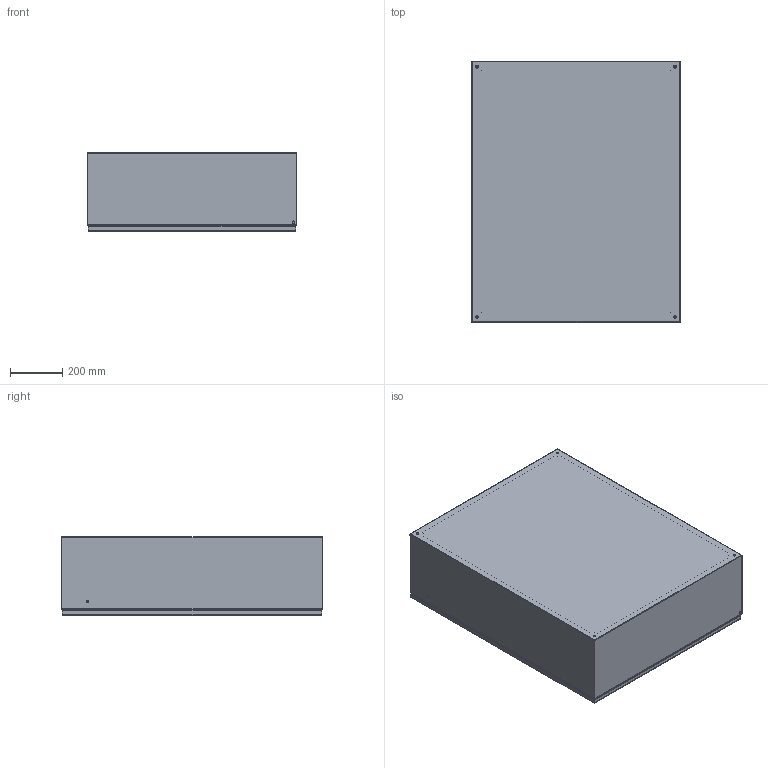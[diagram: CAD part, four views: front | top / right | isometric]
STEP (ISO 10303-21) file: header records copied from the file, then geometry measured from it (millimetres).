
FILE_DESCRIPTION (( 'STEP AP203' ), '1' );
FILE_NAME ('2162010026-semplificato.STEP', '2021-01-08T12:57:25', ( '' ), ( '' ), 'SwSTEP 2.0', 'SolidWorks 2019', '' );
FILE_SCHEMA (( 'CONFIG_CONTROL_DESIGN' ));
Length unit declared in the file: millimetre
Products named in the file (15): 2162010026-00008030004_15; 2162010026-03008010505_52; 2162010026-semplificato; 2162010026-06008030101_21; 2162010026-07008040101_22; 2162010026-Dado esagonale flangiato zigrinato DIN6923_Dado  M8 flangiato-zigrinato DIN6923; 2162010026-03008040101_22; 2162010026-04008010503_52; 2162010026-04008030101_21; 2162010026-00008010102_01; 2162010026-ECOR_Gomma_porta_singola_21; 2162010026-05008010503_52; 2162010026-03008030101_21; 2162010026-05008030101_21; 2162010026-07008030101_21
Assembly tree (21 placements, depth 6):
  2162010026-semplificato
    2162010026-05008010503_52
      2162010026-04008010503_52
        2162010026-03008010505_52
        2162010026-00008010102_01  x2
    2162010026-07008030101_21
      2162010026-06008030101_21
        2162010026-05008030101_21
          2162010026-04008030101_21
            2162010026-03008030101_21
            2162010026-00008010102_01  x2
            2162010026-00008030004_15  x2
        2162010026-ECOR_Gomma_porta_singola_21
    2162010026-07008040101_22
      2162010026-03008040101_22
      2162010026-Dado esagonale flangiato zigrinato DIN6923_Dado  M8 flangiato-zigrinato DIN6923  x4
Bounding box: 800 x 1000 x 300 mm (x, y, z)
Volume: 6009986.4 mm3; surface area: 7196328.1 mm2
Topology: 70 solids, 70 shells, 1962 faces, 4551 edges, 2911 vertices
Faces by surface type: plane 1323, cylinder 436, bspline 92, cone 68, torus 43
Entity records: 48829 total; most frequent: CARTESIAN_POINT 10400, ORIENTED_EDGE 7466, DIRECTION 7266, EDGE_CURVE 3733, LINE 3024, VECTOR 3024, VERTEX_POINT 2405, AXIS2_PLACEMENT_3D 2121
